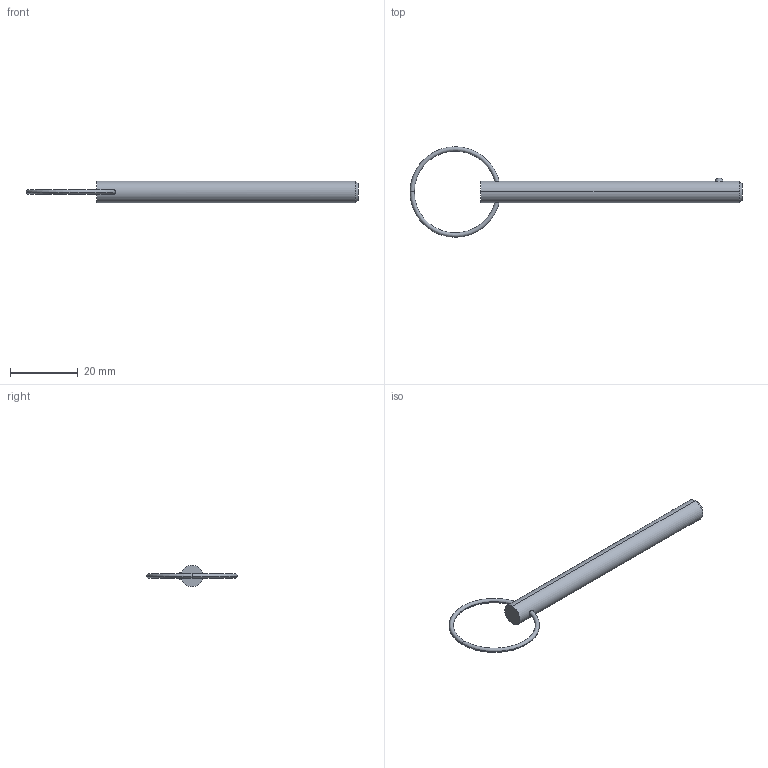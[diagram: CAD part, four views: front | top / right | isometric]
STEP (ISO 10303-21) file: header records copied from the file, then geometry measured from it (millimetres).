
FILE_DESCRIPTION (( 'STEP AP203' ), '1' );
FILE_NAME ('33012.W2525.step', '2024-11-01T14:07:19', ( '' ), ( '' ), 'SwSTEP 2.0', 'SolidWorks 2019', '' );
FILE_SCHEMA (( 'CONFIG_CONTROL_DESIGN' ));
Length unit declared in the file: millimetre
Products named in the file (3): 33012.W2525; Part1_33012.W2525; Part2_33012.W2525
Assembly tree (2 placements, depth 2):
  33012.W2525
    Part1_33012.W2525
    Part2_33012.W2525
Bounding box: 97.87 x 26.67 x 6.35 mm (x, y, z)
Volume: 2524.2 mm3; surface area: 1938.5 mm2
Topology: 2 solids, 2 shells, 16 faces, 31 edges, 18 vertices
Faces by surface type: torus 8, sphere 2, cone 2, cylinder 2, plane 2
Entity records: 811 total; most frequent: CARTESIAN_POINT 168, DIRECTION 88, ORIENTED_EDGE 62, AXIS2_PLACEMENT_3D 42, EDGE_CURVE 31, PERSON_AND_ORGANIZATION 26, CIRCLE 21, DATE_AND_TIME 19
